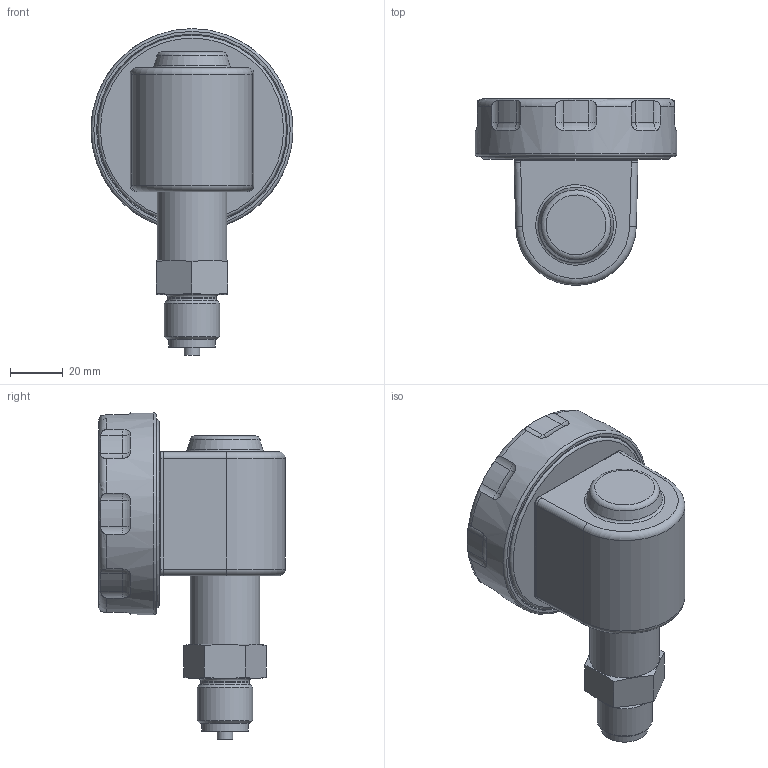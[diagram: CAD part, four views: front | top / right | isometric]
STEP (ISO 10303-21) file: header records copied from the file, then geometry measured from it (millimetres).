
FILE_DESCRIPTION(/* description */ (''),/* implementation_level */ '2;1');
FILE_NAME(/* name */ 'M00-xxxx-x-x-0K0-200-x-x-x-x-000.stp',/* time_stamp */ '2026-02-03T13:19:58+01:00',/* author */ ('cz1166'),/* organization */ (''),/* preprocessor_version */ 'ST-DEVELOPER v20.1',/* originating_system */ 'Autodesk Inventor 2026',/* authorisation */ '');
FILE_SCHEMA (('AUTOMOTIVE_DESIGN { 1 0 10303 214 3 1 1 }'));
Length unit declared in the file: millimetre
Products named in the file (1): M0.900.150
Bounding box: 76.5 x 70.74 x 123.75 mm (x, y, z)
Volume: 220875.2 mm3; surface area: 29668.8 mm2
Topology: 1 solids, 1 shells, 133 faces, 334 edges, 218 vertices
Faces by surface type: cylinder 49, plane 28, torus 28, sphere 16, cone 12
Full cylindrical faces by diameter (mm): 6 x1, 17.5 x1, 18.4 x1, 20.955 x1, 26.5 x1, 63.5 x1, 64 x1, 69.499 x1, 69.5 x1, 71.5 x2, 76.5 x1
Entity records: 4580 total; most frequent: CARTESIAN_POINT 1086, DIRECTION 728, ORIENTED_EDGE 668, EDGE_CURVE 334, AXIS2_PLACEMENT_3D 308, VERTEX_POINT 218, CIRCLE 170, EDGE_LOOP 148
